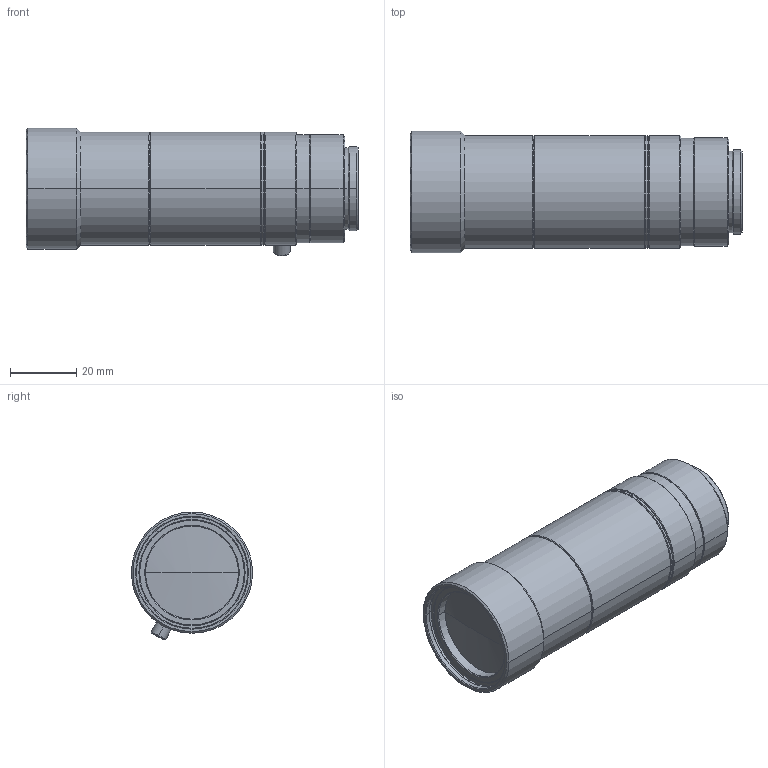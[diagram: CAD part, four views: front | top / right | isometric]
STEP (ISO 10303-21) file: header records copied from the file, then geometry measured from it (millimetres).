
FILE_DESCRIPTION (( 'STEP AP203' ), '1' );
FILE_NAME ('VS-TCT08-65.STEP', '2016-08-30T07:14:45', ( '' ), ( '' ), 'SwSTEP 2.0', 'SolidWorks 2016', '' );
FILE_SCHEMA (( 'CONFIG_CONTROL_DESIGN' ));
Length unit declared in the file: millimetre
Products named in the file (1): VS-TCT08-65
Bounding box: 99.97 x 36.5 x 38.52 mm (x, y, z)
Volume: 83630.5 mm3; surface area: 15032.9 mm2
Topology: 2 solids, 2 shells, 126 faces, 248 edges, 142 vertices
Faces by surface type: cone 64, cylinder 40, plane 18, sphere 4
Entity records: 3291 total; most frequent: DIRECTION 646, CARTESIAN_POINT 517, ORIENTED_EDGE 496, AXIS2_PLACEMENT_3D 271, EDGE_CURVE 248, CIRCLE 144, EDGE_LOOP 142, VERTEX_POINT 142
